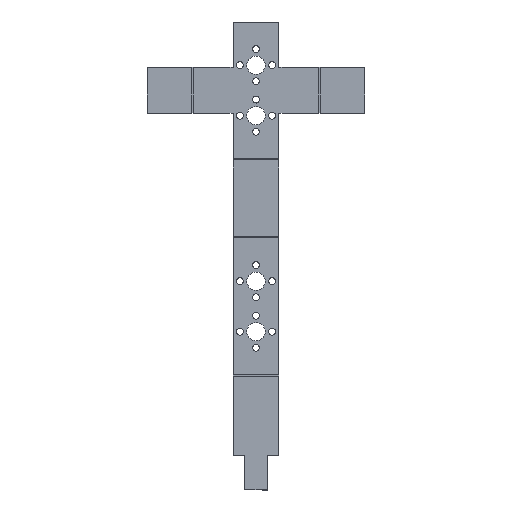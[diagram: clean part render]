
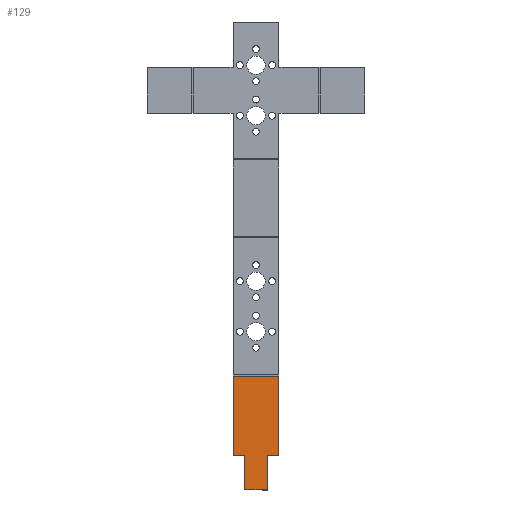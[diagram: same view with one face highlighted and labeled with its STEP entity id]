
A CAD part, top view. The second image highlights one B-rep face of the part: STEP entity #129.
In plain terms, the highlighted planar face has unit normal (0, 0, 1).
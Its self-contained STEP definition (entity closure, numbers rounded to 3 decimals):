
#40 = VERTEX_POINT ( 'NONE', #1263 ) ;
#129 = ADVANCED_FACE ( 'NONE', ( #1331 ), #2536, .F. ) ;
#227 = VERTEX_POINT ( 'NONE', #1547 ) ;
#266 = CARTESIAN_POINT ( 'NONE',  ( 10., -30.476, 0. ) ) ;
#275 = LINE ( 'NONE', #2614, #999 ) ;
#283 = EDGE_CURVE ( 'NONE', #40, #2696, #275, .T. ) ;
#330 = ORIENTED_EDGE ( 'NONE', *, *, #2576, .T. ) ;
#358 = ORIENTED_EDGE ( 'NONE', *, *, #2464, .F. ) ;
#371 = CARTESIAN_POINT ( 'NONE',  ( 10., -79.994, 0. ) ) ;
#484 = CARTESIAN_POINT ( 'NONE',  ( -5., -79.994, 0. ) ) ;
#570 = CARTESIAN_POINT ( 'NONE',  ( -5., -79.994, 0. ) ) ;
#578 = LINE ( 'NONE', #2001, #2117 ) ;
#615 = LINE ( 'NONE', #1554, #1877 ) ;
#626 = EDGE_CURVE ( 'NONE', #227, #2696, #1661, .T. ) ;
#683 = LINE ( 'NONE', #2297, #1451 ) ;
#694 = VERTEX_POINT ( 'NONE', #2342 ) ;
#752 = ORIENTED_EDGE ( 'NONE', *, *, #2774, .F. ) ;
#999 = VECTOR ( 'NONE', #1419, 1000. ) ;
#1034 = ORIENTED_EDGE ( 'NONE', *, *, #1090, .T. ) ;
#1078 = EDGE_CURVE ( 'NONE', #40, #1856, #1103, .T. ) ;
#1090 = EDGE_CURVE ( 'NONE', #1512, #1654, #2282, .T. ) ;
#1096 = VECTOR ( 'NONE', #1734, 1000. ) ;
#1103 = LINE ( 'NONE', #1963, #2067 ) ;
#1255 = CARTESIAN_POINT ( 'NONE',  ( -10., -64.994, 0. ) ) ;
#1263 = CARTESIAN_POINT ( 'NONE',  ( 10., -64.994, 0. ) ) ;
#1300 = VERTEX_POINT ( 'NONE', #1255 ) ;
#1311 = DIRECTION ( 'NONE',  ( 0., -1., 0. ) ) ;
#1331 = FACE_OUTER_BOUND ( 'NONE', #2943, .T. ) ;
#1419 = DIRECTION ( 'NONE',  ( 0., 1., 0. ) ) ;
#1451 = VECTOR ( 'NONE', #2799, 1000. ) ;
#1477 = EDGE_CURVE ( 'NONE', #1856, #1654, #615, .T. ) ;
#1512 = VERTEX_POINT ( 'NONE', #570 ) ;
#1547 = CARTESIAN_POINT ( 'NONE',  ( -10., -30.476, 0. ) ) ;
#1554 = CARTESIAN_POINT ( 'NONE',  ( 5., -79.994, 0. ) ) ;
#1576 = DIRECTION ( 'NONE',  ( -1., 0., 0. ) ) ;
#1654 = VERTEX_POINT ( 'NONE', #2972 ) ;
#1661 = LINE ( 'NONE', #2098, #2228 ) ;
#1719 = ORIENTED_EDGE ( 'NONE', *, *, #626, .F. ) ;
#1734 = DIRECTION ( 'NONE',  ( 1., 0., 0. ) ) ;
#1856 = VERTEX_POINT ( 'NONE', #2003 ) ;
#1877 = VECTOR ( 'NONE', #1311, 1000. ) ;
#1898 = LINE ( 'NONE', #484, #2328 ) ;
#1963 = CARTESIAN_POINT ( 'NONE',  ( 10., -64.994, 0. ) ) ;
#2001 = CARTESIAN_POINT ( 'NONE',  ( -10., -64.994, 0. ) ) ;
#2003 = CARTESIAN_POINT ( 'NONE',  ( 5., -64.994, 0. ) ) ;
#2067 = VECTOR ( 'NONE', #2969, 1000. ) ;
#2073 = AXIS2_PLACEMENT_3D ( 'NONE', #2507, #2261, #2310 ) ;
#2098 = CARTESIAN_POINT ( 'NONE',  ( 0., -30.476, 0. ) ) ;
#2117 = VECTOR ( 'NONE', #1576, 1000. ) ;
#2228 = VECTOR ( 'NONE', #2794, 1000. ) ;
#2261 = DIRECTION ( 'NONE',  ( 0., 0., -1. ) ) ;
#2282 = LINE ( 'NONE', #371, #1096 ) ;
#2297 = CARTESIAN_POINT ( 'NONE',  ( -10., -79.994, 0. ) ) ;
#2310 = DIRECTION ( 'NONE',  ( 0., 1., 0. ) ) ;
#2328 = VECTOR ( 'NONE', #2828, 1000. ) ;
#2342 = CARTESIAN_POINT ( 'NONE',  ( -5., -64.994, 0. ) ) ;
#2445 = ORIENTED_EDGE ( 'NONE', *, *, #1078, .F. ) ;
#2464 = EDGE_CURVE ( 'NONE', #694, #1300, #578, .T. ) ;
#2507 = CARTESIAN_POINT ( 'NONE',  ( 0., -1.472, 0. ) ) ;
#2536 = PLANE ( 'NONE',  #2073 ) ;
#2576 = EDGE_CURVE ( 'NONE', #227, #1300, #683, .T. ) ;
#2614 = CARTESIAN_POINT ( 'NONE',  ( 10., -30.346, 0. ) ) ;
#2671 = ORIENTED_EDGE ( 'NONE', *, *, #283, .T. ) ;
#2696 = VERTEX_POINT ( 'NONE', #266 ) ;
#2774 = EDGE_CURVE ( 'NONE', #1512, #694, #1898, .T. ) ;
#2775 = ORIENTED_EDGE ( 'NONE', *, *, #1477, .F. ) ;
#2794 = DIRECTION ( 'NONE',  ( 1., 0., 0. ) ) ;
#2799 = DIRECTION ( 'NONE',  ( 0., -1., 0. ) ) ;
#2828 = DIRECTION ( 'NONE',  ( 0., 1., 0. ) ) ;
#2943 = EDGE_LOOP ( 'NONE', ( #330, #358, #752, #1034, #2775, #2445, #2671, #1719 ) ) ;
#2969 = DIRECTION ( 'NONE',  ( -1., 0., 0. ) ) ;
#2972 = CARTESIAN_POINT ( 'NONE',  ( 5., -79.994, 0. ) ) ;
